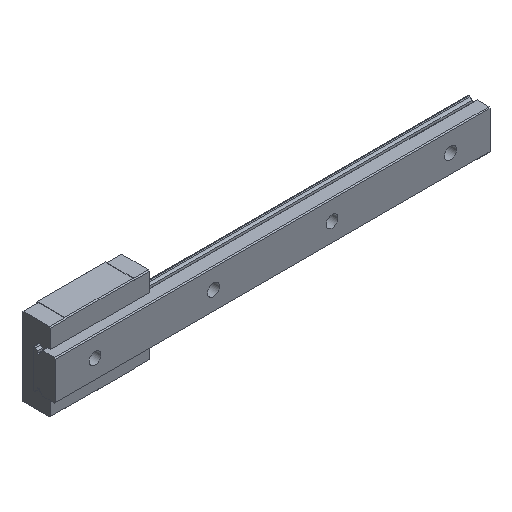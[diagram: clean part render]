
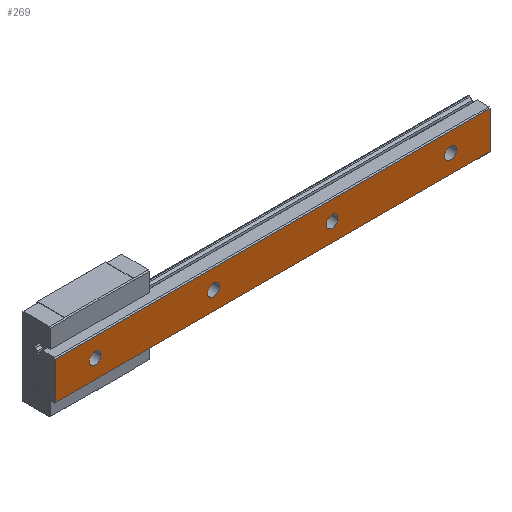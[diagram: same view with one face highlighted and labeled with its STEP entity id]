
A CAD part, isometric view. The second image highlights one B-rep face of the part: STEP entity #269.
In plain terms, the highlighted planar face has unit normal (0, -1, 0).
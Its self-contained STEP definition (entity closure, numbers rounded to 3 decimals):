
#51 = EDGE_CURVE ( 'NONE', #725, #725, #2979, .T. ) ;
#128 = ORIENTED_EDGE ( 'NONE', *, *, #2095, .T. ) ;
#162 = CIRCLE ( 'NONE', #441, 3. ) ;
#195 = EDGE_LOOP ( 'NONE', ( #1500 ) ) ;
#269 = ADVANCED_FACE ( 'NONE', ( #436, #1014, #1660, #2843, #2358 ), #1876, .F. ) ;
#290 = CARTESIAN_POINT ( 'NONE',  ( 60., 0., 0. ) ) ;
#300 = EDGE_CURVE ( 'NONE', #499, #499, #2223, .T. ) ;
#436 = FACE_BOUND ( 'NONE', #458, .T. ) ;
#439 = CARTESIAN_POINT ( 'NONE',  ( 180., 0., 3. ) ) ;
#441 = AXIS2_PLACEMENT_3D ( 'NONE', #290, #2710, #2011 ) ;
#450 = CARTESIAN_POINT ( 'NONE',  ( 60., 0., 3. ) ) ;
#458 = EDGE_LOOP ( 'NONE', ( #2838 ) ) ;
#488 = EDGE_LOOP ( 'NONE', ( #2479, #128, #803, #1072 ) ) ;
#499 = VERTEX_POINT ( 'NONE', #439 ) ;
#532 = LINE ( 'NONE', #2569, #1762 ) ;
#595 = DIRECTION ( 'NONE',  ( 0., 0., -1. ) ) ;
#725 = VERTEX_POINT ( 'NONE', #1638 ) ;
#803 = ORIENTED_EDGE ( 'NONE', *, *, #1958, .F. ) ;
#896 = CARTESIAN_POINT ( 'NONE',  ( 200., 0., 9.5 ) ) ;
#904 = DIRECTION ( 'NONE',  ( 0., 0., -1. ) ) ;
#912 = EDGE_CURVE ( 'NONE', #2097, #2513, #532, .T. ) ;
#995 = VERTEX_POINT ( 'NONE', #1184 ) ;
#1014 = FACE_BOUND ( 'NONE', #1380, .T. ) ;
#1072 = ORIENTED_EDGE ( 'NONE', *, *, #2576, .T. ) ;
#1087 = VECTOR ( 'NONE', #595, 1000. ) ;
#1156 = VECTOR ( 'NONE', #1233, 1000. ) ;
#1184 = CARTESIAN_POINT ( 'NONE',  ( 200., 0., -9.5 ) ) ;
#1233 = DIRECTION ( 'NONE',  ( 1., 0., 0. ) ) ;
#1248 = CARTESIAN_POINT ( 'NONE',  ( -20., 0., 9.5 ) ) ;
#1348 = CARTESIAN_POINT ( 'NONE',  ( 0., 0., 0. ) ) ;
#1380 = EDGE_LOOP ( 'NONE', ( #1830 ) ) ;
#1428 = CARTESIAN_POINT ( 'NONE',  ( 200., 0., 10. ) ) ;
#1436 = DIRECTION ( 'NONE',  ( 0., 0., 1. ) ) ;
#1441 = VERTEX_POINT ( 'NONE', #450 ) ;
#1500 = ORIENTED_EDGE ( 'NONE', *, *, #300, .T. ) ;
#1528 = VERTEX_POINT ( 'NONE', #1893 ) ;
#1638 = CARTESIAN_POINT ( 'NONE',  ( 120., 0., 3. ) ) ;
#1641 = CARTESIAN_POINT ( 'NONE',  ( 200., 0., 10. ) ) ;
#1660 = FACE_OUTER_BOUND ( 'NONE', #488, .T. ) ;
#1762 = VECTOR ( 'NONE', #904, 1000. ) ;
#1780 = DIRECTION ( 'NONE',  ( 0., 1., 0. ) ) ;
#1788 = LINE ( 'NONE', #1428, #1087 ) ;
#1830 = ORIENTED_EDGE ( 'NONE', *, *, #3126, .T. ) ;
#1876 = PLANE ( 'NONE',  #2977 ) ;
#1893 = CARTESIAN_POINT ( 'NONE',  ( 0., 0., 3. ) ) ;
#1901 = AXIS2_PLACEMENT_3D ( 'NONE', #1348, #2813, #2823 ) ;
#1950 = CARTESIAN_POINT ( 'NONE',  ( 180., 0., 0. ) ) ;
#1958 = EDGE_CURVE ( 'NONE', #2004, #995, #1788, .T. ) ;
#2004 = VERTEX_POINT ( 'NONE', #2673 ) ;
#2009 = DIRECTION ( 'NONE',  ( 0., 0., 1. ) ) ;
#2011 = DIRECTION ( 'NONE',  ( 0., 0., 1. ) ) ;
#2018 = CARTESIAN_POINT ( 'NONE',  ( 120., 0., 0. ) ) ;
#2022 = EDGE_CURVE ( 'NONE', #1441, #1441, #162, .T. ) ;
#2083 = AXIS2_PLACEMENT_3D ( 'NONE', #1950, #2421, #2656 ) ;
#2095 = EDGE_CURVE ( 'NONE', #2513, #995, #2780, .T. ) ;
#2097 = VERTEX_POINT ( 'NONE', #1248 ) ;
#2128 = CARTESIAN_POINT ( 'NONE',  ( -20., 0., -9.5 ) ) ;
#2150 = CIRCLE ( 'NONE', #1901, 3. ) ;
#2170 = ORIENTED_EDGE ( 'NONE', *, *, #51, .T. ) ;
#2223 = CIRCLE ( 'NONE', #2083, 3. ) ;
#2358 = FACE_BOUND ( 'NONE', #195, .T. ) ;
#2368 = VECTOR ( 'NONE', #2603, 1000. ) ;
#2421 = DIRECTION ( 'NONE',  ( 0., 1., 0. ) ) ;
#2455 = EDGE_LOOP ( 'NONE', ( #2170 ) ) ;
#2459 = CARTESIAN_POINT ( 'NONE',  ( 200., 0., -9.5 ) ) ;
#2479 = ORIENTED_EDGE ( 'NONE', *, *, #912, .T. ) ;
#2513 = VERTEX_POINT ( 'NONE', #2128 ) ;
#2569 = CARTESIAN_POINT ( 'NONE',  ( -20., 0., 10. ) ) ;
#2576 = EDGE_CURVE ( 'NONE', #2004, #2097, #2889, .T. ) ;
#2603 = DIRECTION ( 'NONE',  ( -1., 0., 0. ) ) ;
#2656 = DIRECTION ( 'NONE',  ( 0., 0., 1. ) ) ;
#2673 = CARTESIAN_POINT ( 'NONE',  ( 200., 0., 9.5 ) ) ;
#2710 = DIRECTION ( 'NONE',  ( 0., 1., 0. ) ) ;
#2758 = AXIS2_PLACEMENT_3D ( 'NONE', #2018, #1780, #2009 ) ;
#2780 = LINE ( 'NONE', #2459, #1156 ) ;
#2813 = DIRECTION ( 'NONE',  ( 0., 1., 0. ) ) ;
#2823 = DIRECTION ( 'NONE',  ( 0., 0., 1. ) ) ;
#2838 = ORIENTED_EDGE ( 'NONE', *, *, #2022, .T. ) ;
#2843 = FACE_BOUND ( 'NONE', #2455, .T. ) ;
#2889 = LINE ( 'NONE', #896, #2368 ) ;
#2977 = AXIS2_PLACEMENT_3D ( 'NONE', #1641, #3056, #1436 ) ;
#2979 = CIRCLE ( 'NONE', #2758, 3. ) ;
#3056 = DIRECTION ( 'NONE',  ( 0., 1., 0. ) ) ;
#3126 = EDGE_CURVE ( 'NONE', #1528, #1528, #2150, .T. ) ;
